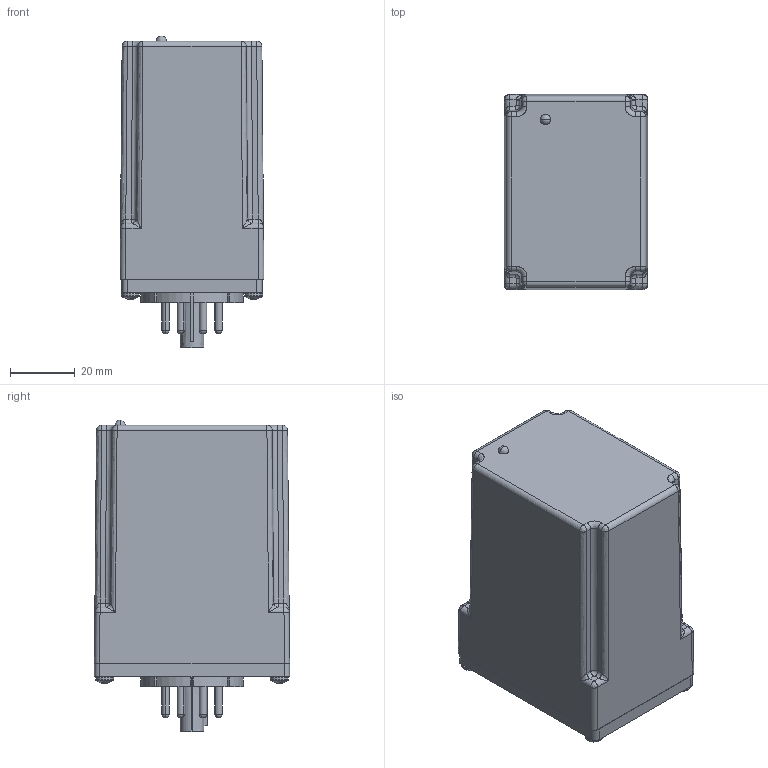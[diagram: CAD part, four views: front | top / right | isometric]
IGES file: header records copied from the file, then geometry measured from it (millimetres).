
Start section: SolidWorks IGES file using analytic representation for surfaces
Global section: file name: C:\Documents and Settings\Joshua\Desktop\eric\090413\PCP-PLP.igs; native system: SolidWorks 2007; preprocessor: SolidWorks 2007; author: Joshua; date: 140904.220055; units: inch
Bounding box: 44.45 x 60.33 x 96.33 mm (x, y, z)
Surface area: 28766.4 mm2 (no closed solid volume)
Topology: 0 solids, 0 shells, 681 faces, 8438 edges, 8368 vertices
Faces by surface type: revolution 350, bspline 331
